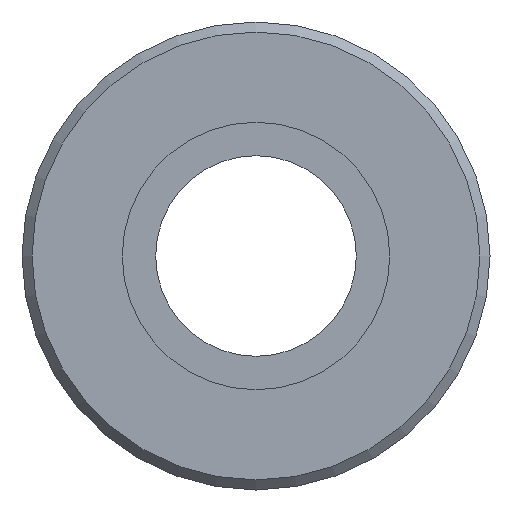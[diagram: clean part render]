
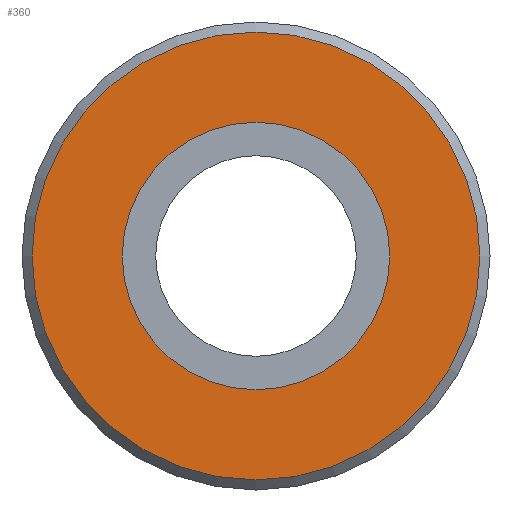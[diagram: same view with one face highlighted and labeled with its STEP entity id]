
A CAD part, front view. The second image highlights one B-rep face of the part: STEP entity #360.
In plain terms, the highlighted planar face has unit normal (0, -1, 0).
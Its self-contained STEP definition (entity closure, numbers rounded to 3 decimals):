
#17=FACE_BOUND('',#67,.T.);
#25=PLANE('',#415);
#40=FACE_OUTER_BOUND('',#66,.T.);
#66=EDGE_LOOP('',(#259));
#67=EDGE_LOOP('',(#260));
#133=CIRCLE('',#412,6.7);
#135=CIRCLE('',#416,4.);
#167=VERTEX_POINT('',#616);
#169=VERTEX_POINT('',#624);
#201=EDGE_CURVE('',#167,#167,#133,.T.);
#204=EDGE_CURVE('',#169,#169,#135,.T.);
#259=ORIENTED_EDGE('',*,*,#201,.F.);
#260=ORIENTED_EDGE('',*,*,#204,.T.);
#360=ADVANCED_FACE('',(#40,#17),#25,.F.);
#412=AXIS2_PLACEMENT_3D('',#618,#482,#483);
#415=AXIS2_PLACEMENT_3D('',#623,#489,#490);
#416=AXIS2_PLACEMENT_3D('',#625,#491,#492);
#482=DIRECTION('center_axis',(0.,1.,0.));
#483=DIRECTION('ref_axis',(-1.,0.,0.));
#489=DIRECTION('center_axis',(0.,1.,0.));
#490=DIRECTION('ref_axis',(0.,0.,1.));
#491=DIRECTION('center_axis',(0.,1.,0.));
#492=DIRECTION('ref_axis',(1.,0.,0.));
#616=CARTESIAN_POINT('',(6.7,-18.,0.));
#618=CARTESIAN_POINT('Origin',(0.,-18.,0.));
#623=CARTESIAN_POINT('Origin',(0.,-18.,0.));
#624=CARTESIAN_POINT('',(-4.,-18.,0.));
#625=CARTESIAN_POINT('Origin',(0.,-18.,0.));
